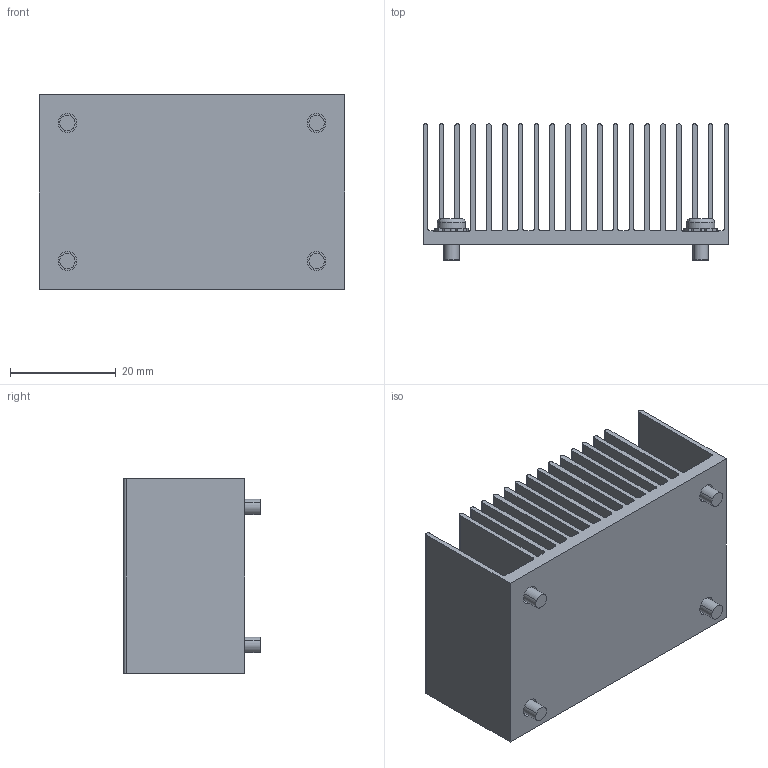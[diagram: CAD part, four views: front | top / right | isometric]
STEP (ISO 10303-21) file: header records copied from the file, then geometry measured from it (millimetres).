
FILE_DESCRIPTION (( 'STEP AP214' ), '1' );
FILE_NAME ('HS1574EBK06.STEP', '2023-03-03T16:28:12', ( '' ), ( '' ), 'SwSTEP 2.0', 'SolidWorks 2020', '' );
FILE_SCHEMA (( 'AUTOMOTIVE_DESIGN' ));
Length unit declared in the file: millimetre
Products named in the file (1): HS1574EBK06
Bounding box: 57.91 x 25.81 x 36.83 mm (x, y, z)
Volume: 17670.3 mm3; surface area: 32789.2 mm2
Topology: 5 solids, 5 shells, 540 faces, 1429 edges, 907 vertices
Faces by surface type: plane 386, cylinder 146, torus 8
Entity records: 22625 total; most frequent: CARTESIAN_POINT 2953, DIRECTION 2869, ORIENTED_EDGE 2858, EDGE_CURVE 1429, VECTOR 1049, LINE 1049, AXIS2_PLACEMENT_3D 910, VERTEX_POINT 907
